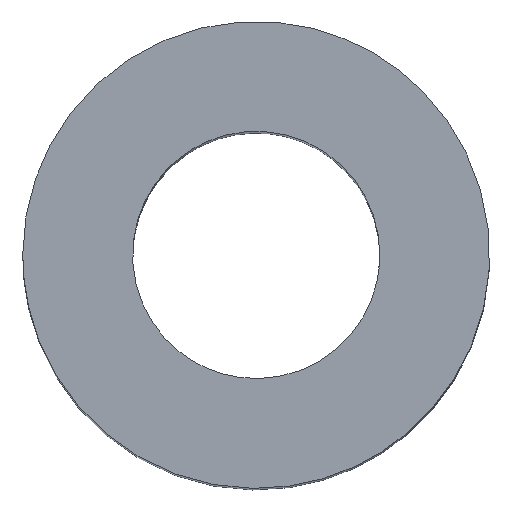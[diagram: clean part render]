
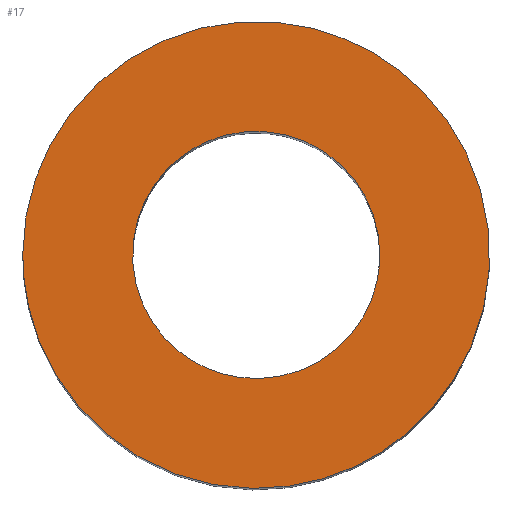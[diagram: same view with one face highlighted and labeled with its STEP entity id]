
A CAD part, top view. The second image highlights one B-rep face of the part: STEP entity #17.
In plain terms, the highlighted free-form (B-spline) face has degree [1, 1] with [2, 2] control points.
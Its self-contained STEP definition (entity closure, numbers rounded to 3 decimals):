
#17 = ADVANCED_FACE('',(#18,#32),#46,.T.);
#18 = FACE_BOUND('',#19,.T.);
#19 = EDGE_LOOP('',(#20));
#20 = ORIENTED_EDGE('',*,*,#21,.F.);
#21 = EDGE_CURVE('',#22,#22,#24,.T.);
#22 = VERTEX_POINT('',#23);
#23 = CARTESIAN_POINT('',(1.35,0.,10.));
#24 = ( BOUNDED_CURVE() B_SPLINE_CURVE(2,(#25,#26,#27,#28,#29,#30,#31),
.UNSPECIFIED.,.T.,.F.) B_SPLINE_CURVE_WITH_KNOTS((1,2,2,2,2,1),(
    -2.094,0.,2.094,4.189,6.283,
8.378),.UNSPECIFIED.) CURVE() GEOMETRIC_REPRESENTATION_ITEM() 
RATIONAL_B_SPLINE_CURVE((1.,0.5,1.,0.5,1.,0.5,1.)) REPRESENTATION_ITEM(
  '') );
#25 = CARTESIAN_POINT('',(1.35,0.,10.));
#26 = CARTESIAN_POINT('',(1.35,2.338,10.));
#27 = CARTESIAN_POINT('',(-0.675,1.169,10.));
#28 = CARTESIAN_POINT('',(-2.7,0.,10.));
#29 = CARTESIAN_POINT('',(-0.675,-1.169,10.));
#30 = CARTESIAN_POINT('',(1.35,-2.338,10.));
#31 = CARTESIAN_POINT('',(1.35,0.,10.));
#32 = FACE_BOUND('',#33,.T.);
#33 = EDGE_LOOP('',(#34));
#34 = ORIENTED_EDGE('',*,*,#35,.F.);
#35 = EDGE_CURVE('',#36,#36,#38,.T.);
#36 = VERTEX_POINT('',#37);
#37 = CARTESIAN_POINT('',(-2.55,0.,10.));
#38 = ( BOUNDED_CURVE() B_SPLINE_CURVE(2,(#39,#40,#41,#42,#43,#44,#45),
.UNSPECIFIED.,.T.,.F.) B_SPLINE_CURVE_WITH_KNOTS((1,2,2,2,2,1),(
    -2.094,0.,2.094,4.189,6.283,
8.378),.UNSPECIFIED.) CURVE() GEOMETRIC_REPRESENTATION_ITEM() 
RATIONAL_B_SPLINE_CURVE((1.,0.5,1.,0.5,1.,0.5,1.)) REPRESENTATION_ITEM(
  '') );
#39 = CARTESIAN_POINT('',(-2.55,0.,10.));
#40 = CARTESIAN_POINT('',(-2.55,4.417,10.));
#41 = CARTESIAN_POINT('',(1.275,2.208,10.));
#42 = CARTESIAN_POINT('',(5.1,0.,10.));
#43 = CARTESIAN_POINT('',(1.275,-2.208,10.));
#44 = CARTESIAN_POINT('',(-2.55,-4.417,10.));
#45 = CARTESIAN_POINT('',(-2.55,0.,10.));
#46 = B_SPLINE_SURFACE_WITH_KNOTS('',1,1,(
    (#47,#48)
    ,(#49,#50
    )),.UNSPECIFIED.,.F.,.F.,.F.,(2,2),(2,2),(0.,5.1),(
    -2.55,2.55),.PIECEWISE_BEZIER_KNOTS.);
#47 = CARTESIAN_POINT('',(-2.55,-2.55,10.));
#48 = CARTESIAN_POINT('',(-2.55,2.55,10.));
#49 = CARTESIAN_POINT('',(2.55,-2.55,10.));
#50 = CARTESIAN_POINT('',(2.55,2.55,10.));
